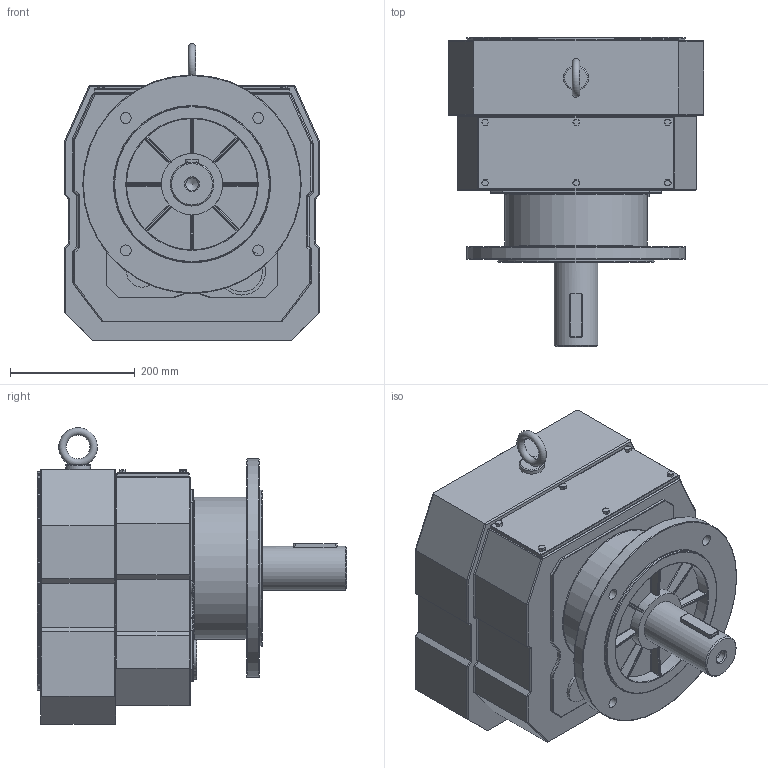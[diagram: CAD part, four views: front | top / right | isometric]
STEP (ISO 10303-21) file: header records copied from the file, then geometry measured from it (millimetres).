
FILE_DESCRIPTION((''),'2;1');
FILE_NAME('D:\PAWEŁ\ZLECENIA\2011 DualSystem\Przekładnie DR\DR100\STEP\DRF100_fi 350.stp','2012-06-11T12:26:40',('admin'),(''),'Autodesk Inventor 2009','Autodesk Inventor 2009','');
FILE_SCHEMA(('AUTOMOTIVE_DESIGN { 1 0 10303 214 1 1 1 1 }'));
Length unit declared in the file: millimetre
Products named in the file (1): DRF100_fi 350
Bounding box: 409 x 495 x 474.99 mm (x, y, z)
Volume: 41731675 mm3; surface area: 1030116.4 mm2
Topology: 2 solids, 2 shells, 504 faces, 1206 edges, 682 vertices
Faces by surface type: cylinder 231, plane 165, sphere 44, bspline 43, torus 19, cone 2
Full cylindrical faces by diameter (mm): 40 x1, 50 x1, 65 x1, 70 x1, 75 x1, 98 x1, 210 x1, 228 x1, 250 x1, 260 x1, 350 x2
Entity records: 17073 total; most frequent: CARTESIAN_POINT 5486, DIRECTION 2486, ORIENTED_EDGE 2256, EDGE_CURVE 1128, AXIS2_PLACEMENT_3D 939, VERTEX_POINT 673, VECTOR 608, LINE 608
